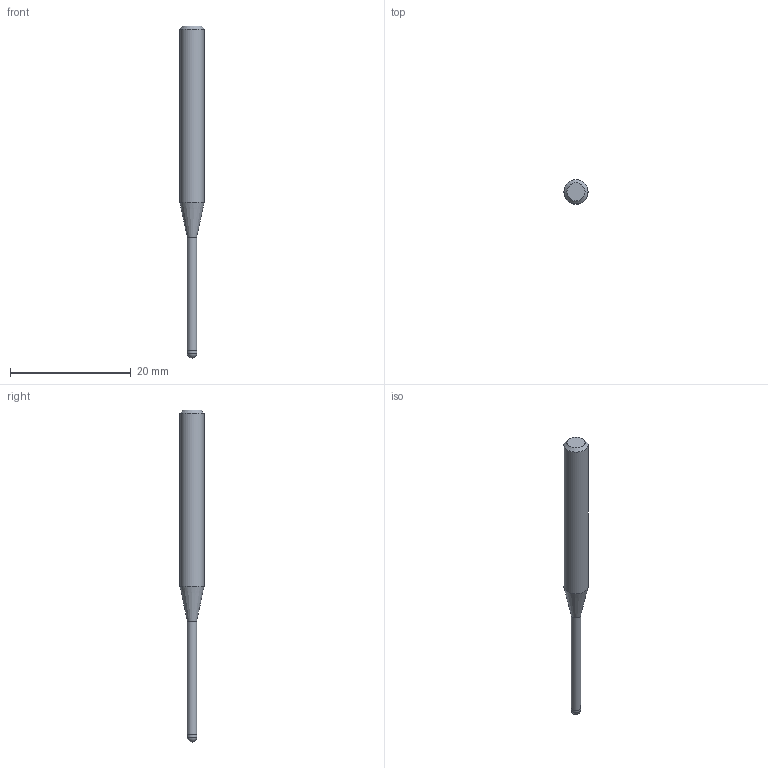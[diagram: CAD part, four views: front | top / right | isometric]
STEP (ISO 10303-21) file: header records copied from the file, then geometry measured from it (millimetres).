
FILE_DESCRIPTION((''),'2;1');
FILE_NAME('C:\Users\nsx150\AppData\Local\Temp\Mastercam 2021\ARV7HD45SN\TEMP.step','2023-06-13T16:36:53',(''),(''),'STEP Write','Mastercam 2021 ... CNC Software, Inc.','');
FILE_SCHEMA(('AUTOMOTIVE_DESIGN'));
Length unit declared in the file: millimetre
Products named in the file (1): None
Bounding box: 4 x 4 x 55 mm (x, y, z)
Volume: 440.4 mm3; surface area: 528.8 mm2
Topology: 2 solids, 2 shells, 9 faces, 14 edges, 8 vertices
Faces by surface type: plane 3, cylinder 3, cone 2, sphere 1
Full cylindrical faces by diameter (mm): 1.55 x1, 1.6 x1, 4 x1
Entity records: 211 total; most frequent: DIRECTION 36, CARTESIAN_POINT 25, AXIS2_PLACEMENT_3D 18, ORIENTED_EDGE 14, EDGE_LOOP 14, STYLED_ITEM 12, ADVANCED_FACE 9, FACE_BOUND 8
